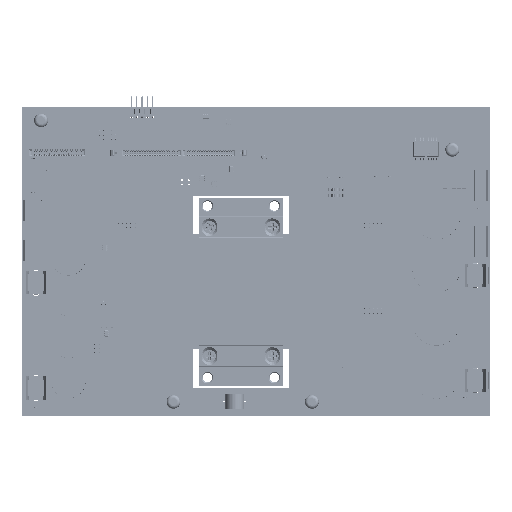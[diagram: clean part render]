
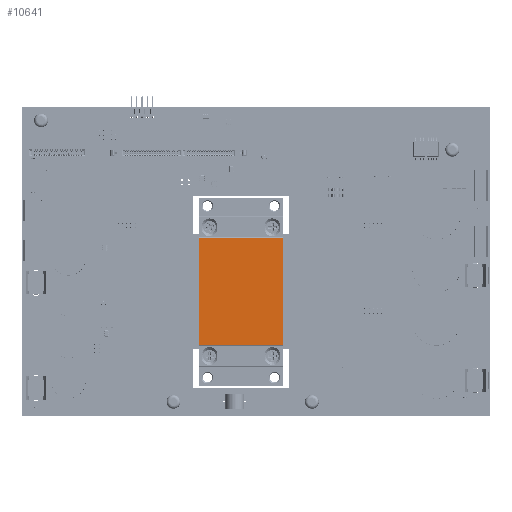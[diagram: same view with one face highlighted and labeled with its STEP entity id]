
A CAD part, top view. The second image highlights one B-rep face of the part: STEP entity #10641.
In plain terms, the highlighted planar face has unit normal (0, 0, 1) as drawn and (0, -1, 0) by its records, which use the part's own axes.
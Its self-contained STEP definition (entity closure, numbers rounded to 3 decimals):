
#10395 = VERTEX_POINT('',#10396);
#10396 = CARTESIAN_POINT('',(-20.,0.,-25.5));
#10403 = EDGE_CURVE('',#10395,#10404,#10406,.T.);
#10404 = VERTEX_POINT('',#10405);
#10405 = CARTESIAN_POINT('',(-20.,0.,25.5));
#10406 = LINE('',#10407,#10408);
#10407 = CARTESIAN_POINT('',(-20.,0.,-36.));
#10408 = VECTOR('',#10409,1.);
#10409 = DIRECTION('',(0.,0.,1.));
#10492 = VERTEX_POINT('',#10493);
#10493 = CARTESIAN_POINT('',(20.,0.,25.5));
#10500 = EDGE_CURVE('',#10492,#10501,#10503,.T.);
#10501 = VERTEX_POINT('',#10502);
#10502 = CARTESIAN_POINT('',(20.,0.,-25.5));
#10503 = LINE('',#10504,#10505);
#10504 = CARTESIAN_POINT('',(20.,0.,-36.));
#10505 = VECTOR('',#10506,1.);
#10506 = DIRECTION('',(0.,0.,-1.));
#10641 = ADVANCED_FACE('',(#10642),#10658,.F.);
#10642 = FACE_BOUND('',#10643,.T.);
#10643 = EDGE_LOOP('',(#10644,#10645,#10651,#10652));
#10644 = ORIENTED_EDGE('',*,*,#10500,.F.);
#10645 = ORIENTED_EDGE('',*,*,#10646,.T.);
#10646 = EDGE_CURVE('',#10492,#10404,#10647,.T.);
#10647 = LINE('',#10648,#10649);
#10648 = CARTESIAN_POINT('',(0.,0.,25.5));
#10649 = VECTOR('',#10650,1.);
#10650 = DIRECTION('',(-1.,0.,0.));
#10651 = ORIENTED_EDGE('',*,*,#10403,.F.);
#10652 = ORIENTED_EDGE('',*,*,#10653,.T.);
#10653 = EDGE_CURVE('',#10395,#10501,#10654,.T.);
#10654 = LINE('',#10655,#10656);
#10655 = CARTESIAN_POINT('',(0.,0.,-25.5));
#10656 = VECTOR('',#10657,1.);
#10657 = DIRECTION('',(1.,0.,0.));
#10658 = PLANE('',#10659);
#10659 = AXIS2_PLACEMENT_3D('',#10660,#10661,#10662);
#10660 = CARTESIAN_POINT('',(0.,0.,0.));
#10661 = DIRECTION('',(0.,1.,0.));
#10662 = DIRECTION('',(0.,0.,1.));
